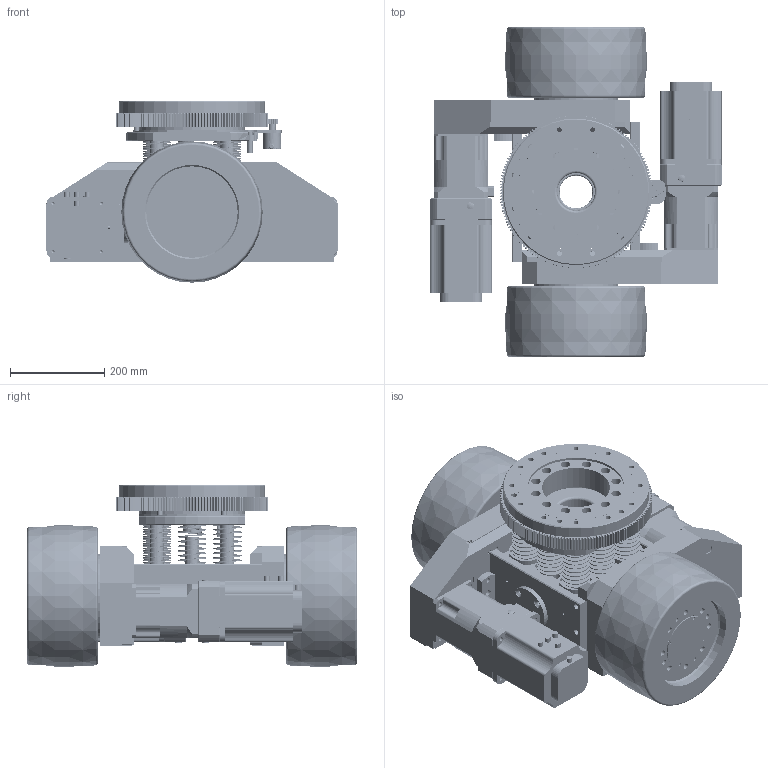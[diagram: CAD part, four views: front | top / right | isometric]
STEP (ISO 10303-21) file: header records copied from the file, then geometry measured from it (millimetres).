
FILE_DESCRIPTION (( 'STEP AP203' ), '1' );
FILE_NAME ('TYCD300.STEP', '2026-04-02T02:41:17', ( '' ), ( '' ), 'SwSTEP 2.0', 'SolidWorks 2024', '' );
FILE_SCHEMA (( 'CONFIG_CONTROL_DESIGN' ));
Products named in the file (1): TYCD300
Bounding box: 617.67 x 700 x 385 mm (x, y, z)
Volume: 42944808.7 mm3; surface area: 5565870 mm2
Topology: 77 solids, 92 shells, 6021 faces, 16188 edges, 10712 vertices
Faces by surface type: cylinder 3308, plane 1027, cone 941, bspline 544, torus 179, sphere 22
Full cylindrical faces by diameter (mm): 2.5 x1, 3.2 x3, 4.2 x18, 5.2 x40, 5.5 x3, 6 x1, 6.2 x8, 6.5 x20, 6.8 x24, 8.2 x4, 8.5 x32, 10 x20, 10.5 x88, 11 x20, 12 x18, 12.5 x64, 13 x2, 14 x10, 14.998 x1, 15 x8, 17 x16, 19 x4, 20 x51, 30 x20, 35 x8, 39 x1, 45 x20, 48 x2, 50 x4, 51 x2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
Entity records: 272813 total; most frequent: CARTESIAN_POINT 124982, DIRECTION 31146, ORIENTED_EDGE 30316, EDGE_CURVE 15158, AXIS2_PLACEMENT_3D 13472, VERTEX_POINT 10429, CIRCLE 7994, EDGE_LOOP 7827
